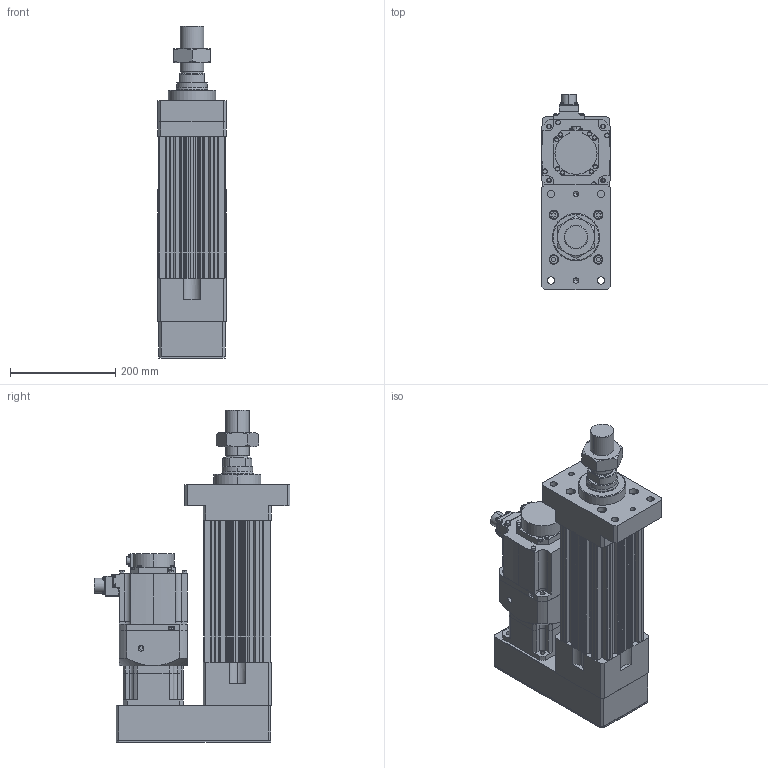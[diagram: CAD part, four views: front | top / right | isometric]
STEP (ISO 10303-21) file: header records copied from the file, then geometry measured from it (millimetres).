
FILE_DESCRIPTION (( 'STEP AP203' ), '1' );
FILE_NAME ('HES130NS(FS)(HS)-P050-W015G00-M-FMB.STEP', '2023-01-29T05:08:32', ( 'tms' ), ( '' ), 'SwSTEP 2.0', 'SolidWorks 2013', '' );
FILE_SCHEMA (( 'CONFIG_CONTROL_DESIGN' ));
Length unit declared in the file: millimetre
Products named in the file (8): HG-SR152; P0401400706; AB1151; M45X1.5P; HES130NS(FS)(HS)-P050-W015G00-M-FMB; HES130-P050-G120-FMB; HES130 ROD M ST050; AB115-003[HG-SR152]
Assembly tree (7 placements, depth 3):
  HES130NS(FS)(HS)-P050-W015G00-M-FMB
    HES130-P050-G120-FMB
    HES130 ROD M ST050
    M45X1.5P
    AB115-003[HG-SR152]
      AB1151
      P0401400706
    HG-SR152
Bounding box: 130 x 372.49 x 632 mm (x, y, z)
Volume: 8828437.5 mm3; surface area: 942329.2 mm2
Topology: 4 solids, 11 shells, 1082 faces, 2768 edges, 1799 vertices
Faces by surface type: cylinder 513, plane 489, cone 68, bspline 8, torus 4
Entity records: 34626 total; most frequent: CARTESIAN_POINT 6632, DIRECTION 5993, ORIENTED_EDGE 5484, EDGE_CURVE 2752, AXIS2_PLACEMENT_3D 2228, VERTEX_POINT 1799, LINE 1537, VECTOR 1537
